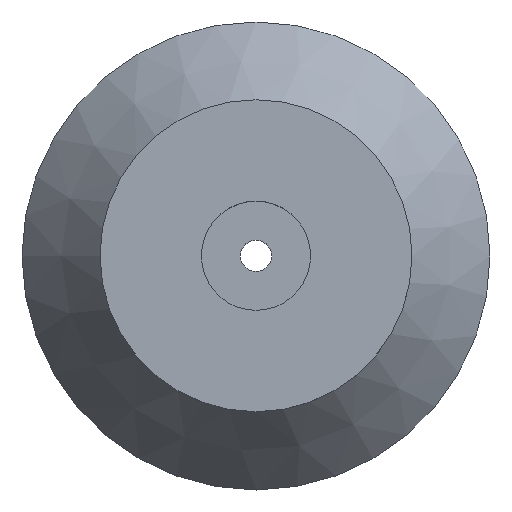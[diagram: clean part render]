
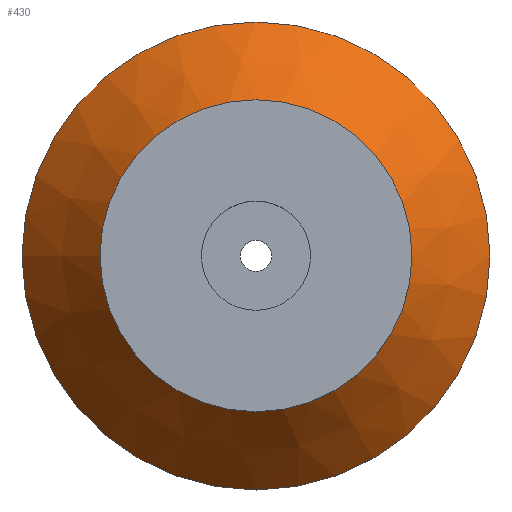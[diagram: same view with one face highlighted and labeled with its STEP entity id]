
A CAD part, top view. The second image highlights one B-rep face of the part: STEP entity #430.
In plain terms, the highlighted conical face has half-angle 37.637 degrees and reference radius 7.5 mm.
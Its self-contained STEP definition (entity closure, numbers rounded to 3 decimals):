
#430 = ADVANCED_FACE( '', ( #888, #889 ), #890, .T. );
#888 = FACE_BOUND( '', #1351, .T. );
#889 = FACE_OUTER_BOUND( '', #1352, .T. );
#890 = CONICAL_SURFACE( '', #1353, 7.5, 0.657 );
#1351 = EDGE_LOOP( '', ( #2588 ) );
#1352 = EDGE_LOOP( '', ( #2589 ) );
#1353 = AXIS2_PLACEMENT_3D( '', #2590, #2591, #2592 );
#2588 = ORIENTED_EDGE( '', *, *, #2805, .T. );
#2589 = ORIENTED_EDGE( '', *, *, #2907, .F. );
#2590 = CARTESIAN_POINT( '', ( 0., 0., -2.2 ) );
#2591 = DIRECTION( '', ( 0., 0., -1. ) );
#2592 = DIRECTION( '', ( -1., 0., 0. ) );
#2805 = EDGE_CURVE( '', #3393, #3393, #3394, .T. );
#2907 = EDGE_CURVE( '', #3564, #3564, #3565, .T. );
#3393 = VERTEX_POINT( '', #4203 );
#3394 = CIRCLE( '', #4204, 5. );
#3564 = VERTEX_POINT( '', #4428 );
#3565 = CIRCLE( '', #4429, 7.5 );
#4203 = CARTESIAN_POINT( '', ( -5., 0., 1.042 ) );
#4204 = AXIS2_PLACEMENT_3D( '', #5120, #5121, #5122 );
#4428 = CARTESIAN_POINT( '', ( -7.5, 0., -2.2 ) );
#4429 = AXIS2_PLACEMENT_3D( '', #5246, #5247, #5248 );
#5120 = CARTESIAN_POINT( '', ( 0., 0., 1.042 ) );
#5121 = DIRECTION( '', ( 0., 0., -1. ) );
#5122 = DIRECTION( '', ( -1., 0., 0. ) );
#5246 = CARTESIAN_POINT( '', ( 0., 0., -2.2 ) );
#5247 = DIRECTION( '', ( 0., 0., -1. ) );
#5248 = DIRECTION( '', ( -1., 0., 0. ) );
